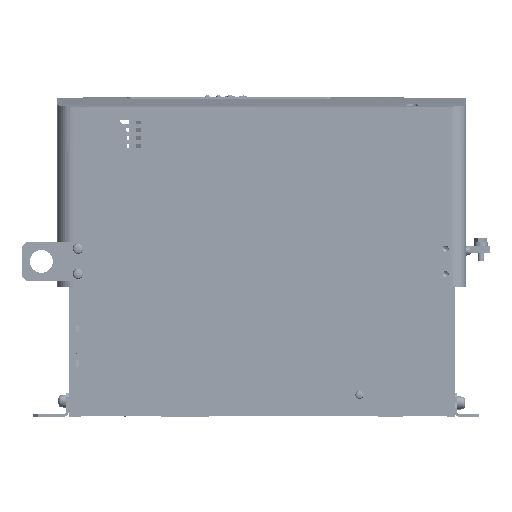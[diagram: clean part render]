
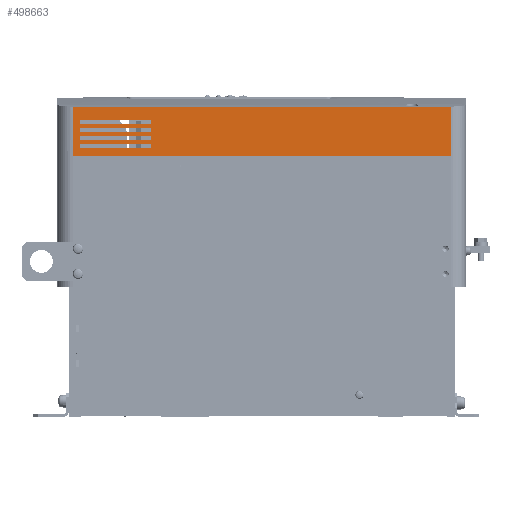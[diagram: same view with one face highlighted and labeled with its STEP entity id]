
A CAD part, left-side view. The second image highlights one B-rep face of the part: STEP entity #498663.
In plain terms, the highlighted planar face has unit normal (-1, 0, 0).
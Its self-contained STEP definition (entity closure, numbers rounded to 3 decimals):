
#488351=CARTESIAN_POINT('',(-120.,365.5,157.684));
#488387=CARTESIAN_POINT('',(-120.,34.5,157.684));
#488545=DIRECTION('',(0.,-1.,0.));
#488546=VECTOR('',#488545,331.);
#488547=CARTESIAN_POINT('',(-120.,365.5,114.5));
#488548=LINE('',#488547,#488546);
#488549=DIRECTION('',(0.,0.,-1.));
#488550=VECTOR('',#488549,43.184);
#488551=CARTESIAN_POINT('',(-120.,365.5,157.684));
#488552=LINE('',#488551,#488550);
#488553=DIRECTION('',(0.,1.,0.));
#488554=VECTOR('',#488553,331.);
#488555=CARTESIAN_POINT('',(-120.,34.5,157.684));
#488556=LINE('',#488555,#488554);
#488557=DIRECTION('',(0.,0.,-1.));
#488558=VECTOR('',#488557,43.184);
#488559=CARTESIAN_POINT('',(-120.,34.5,157.684));
#488560=LINE('',#488559,#488558);
#488561=DIRECTION('',(0.,0.,-1.));
#488562=VECTOR('',#488561,4.);
#488563=CARTESIAN_POINT('',(-120.,297.,125.));
#488564=LINE('',#488563,#488562);
#488565=DIRECTION('',(0.,1.,0.));
#488566=VECTOR('',#488565,62.);
#488567=CARTESIAN_POINT('',(-120.,297.,125.));
#488568=LINE('',#488567,#488566);
#488569=DIRECTION('',(0.,0.,-1.));
#488570=VECTOR('',#488569,4.);
#488571=CARTESIAN_POINT('',(-120.,359.,125.));
#488572=LINE('',#488571,#488570);
#488573=DIRECTION('',(0.,1.,0.));
#488574=VECTOR('',#488573,62.);
#488575=CARTESIAN_POINT('',(-120.,297.,121.));
#488576=LINE('',#488575,#488574);
#488577=DIRECTION('',(0.,0.,-1.));
#488578=VECTOR('',#488577,4.);
#488579=CARTESIAN_POINT('',(-120.,297.,132.01));
#488580=LINE('',#488579,#488578);
#488581=DIRECTION('',(0.,1.,0.));
#488582=VECTOR('',#488581,62.);
#488583=CARTESIAN_POINT('',(-120.,297.,132.01));
#488584=LINE('',#488583,#488582);
#488585=DIRECTION('',(0.,0.,-1.));
#488586=VECTOR('',#488585,4.);
#488587=CARTESIAN_POINT('',(-120.,359.,132.01));
#488588=LINE('',#488587,#488586);
#488589=DIRECTION('',(0.,1.,0.));
#488590=VECTOR('',#488589,62.);
#488591=CARTESIAN_POINT('',(-120.,297.,128.01));
#488592=LINE('',#488591,#488590);
#488593=DIRECTION('',(0.,0.,-1.));
#488594=VECTOR('',#488593,4.);
#488595=CARTESIAN_POINT('',(-120.,297.,139.019));
#488596=LINE('',#488595,#488594);
#488597=DIRECTION('',(0.,1.,0.));
#488598=VECTOR('',#488597,62.);
#488599=CARTESIAN_POINT('',(-120.,297.,139.019));
#488600=LINE('',#488599,#488598);
#488601=DIRECTION('',(0.,0.,-1.));
#488602=VECTOR('',#488601,4.);
#488603=CARTESIAN_POINT('',(-120.,359.,139.019));
#488604=LINE('',#488603,#488602);
#488605=DIRECTION('',(0.,1.,0.));
#488606=VECTOR('',#488605,62.);
#488607=CARTESIAN_POINT('',(-120.,297.,135.019));
#488608=LINE('',#488607,#488606);
#488609=DIRECTION('',(0.,0.,-1.));
#488610=VECTOR('',#488609,4.);
#488611=CARTESIAN_POINT('',(-120.,297.,146.029));
#488612=LINE('',#488611,#488610);
#488613=DIRECTION('',(0.,1.,0.));
#488614=VECTOR('',#488613,62.);
#488615=CARTESIAN_POINT('',(-120.,297.,146.029));
#488616=LINE('',#488615,#488614);
#488617=DIRECTION('',(0.,0.,-1.));
#488618=VECTOR('',#488617,4.);
#488619=CARTESIAN_POINT('',(-120.,359.,146.029));
#488620=LINE('',#488619,#488618);
#488621=DIRECTION('',(0.,1.,0.));
#488622=VECTOR('',#488621,62.);
#488623=CARTESIAN_POINT('',(-120.,297.,142.029));
#488624=LINE('',#488623,#488622);
#495411=VERTEX_POINT('',#488351);
#495416=VERTEX_POINT('',#488387);
#495420=CARTESIAN_POINT('',(-120.,34.5,114.5));
#495421=VERTEX_POINT('',#495420);
#495444=CARTESIAN_POINT('',(-120.,365.5,114.5));
#495445=VERTEX_POINT('',#495444);
#495494=CARTESIAN_POINT('',(-120.,297.,121.));
#495496=VERTEX_POINT('',#495494);
#495499=CARTESIAN_POINT('',(-120.,297.,125.));
#495501=VERTEX_POINT('',#495499);
#495502=CARTESIAN_POINT('',(-120.,359.,121.));
#495504=VERTEX_POINT('',#495502);
#495507=CARTESIAN_POINT('',(-120.,359.,125.));
#495509=VERTEX_POINT('',#495507);
#495510=CARTESIAN_POINT('',(-120.,297.,128.01));
#495512=VERTEX_POINT('',#495510);
#495515=CARTESIAN_POINT('',(-120.,297.,132.01));
#495517=VERTEX_POINT('',#495515);
#495518=CARTESIAN_POINT('',(-120.,359.,128.01));
#495520=VERTEX_POINT('',#495518);
#495523=CARTESIAN_POINT('',(-120.,359.,132.01));
#495525=VERTEX_POINT('',#495523);
#495526=CARTESIAN_POINT('',(-120.,297.,135.019));
#495528=VERTEX_POINT('',#495526);
#495531=CARTESIAN_POINT('',(-120.,297.,139.019));
#495533=VERTEX_POINT('',#495531);
#495534=CARTESIAN_POINT('',(-120.,359.,135.019));
#495536=VERTEX_POINT('',#495534);
#495539=CARTESIAN_POINT('',(-120.,359.,139.019));
#495541=VERTEX_POINT('',#495539);
#495542=CARTESIAN_POINT('',(-120.,297.,142.029));
#495544=VERTEX_POINT('',#495542);
#495547=CARTESIAN_POINT('',(-120.,297.,146.029));
#495549=VERTEX_POINT('',#495547);
#495550=CARTESIAN_POINT('',(-120.,359.,142.029));
#495552=VERTEX_POINT('',#495550);
#495555=CARTESIAN_POINT('',(-120.,359.,146.029));
#495557=VERTEX_POINT('',#495555);
#498611=CARTESIAN_POINT('',(-120.,379.,166.));
#498612=DIRECTION('',(-1.,0.,0.));
#498613=DIRECTION('',(0.,-1.,0.));
#498614=AXIS2_PLACEMENT_3D('',#498611,#498612,#498613);
#498615=PLANE('',#498614);
#498616=ORIENTED_EDGE('',*,*,#496411,.F.);
#498617=ORIENTED_EDGE('',*,*,#498560,.F.);
#498618=ORIENTED_EDGE('',*,*,#498485,.F.);
#498620=ORIENTED_EDGE('',*,*,#498619,.T.);
#498621=EDGE_LOOP('',(#498616,#498617,#498618,#498620));
#498622=FACE_OUTER_BOUND('',#498621,.F.);
#498624=ORIENTED_EDGE('',*,*,#498623,.F.);
#498626=ORIENTED_EDGE('',*,*,#498625,.T.);
#498628=ORIENTED_EDGE('',*,*,#498627,.T.);
#498630=ORIENTED_EDGE('',*,*,#498629,.F.);
#498631=EDGE_LOOP('',(#498624,#498626,#498628,#498630));
#498632=FACE_BOUND('',#498631,.F.);
#498634=ORIENTED_EDGE('',*,*,#498633,.F.);
#498636=ORIENTED_EDGE('',*,*,#498635,.T.);
#498638=ORIENTED_EDGE('',*,*,#498637,.T.);
#498640=ORIENTED_EDGE('',*,*,#498639,.F.);
#498641=EDGE_LOOP('',(#498634,#498636,#498638,#498640));
#498642=FACE_BOUND('',#498641,.F.);
#498644=ORIENTED_EDGE('',*,*,#498643,.F.);
#498646=ORIENTED_EDGE('',*,*,#498645,.T.);
#498648=ORIENTED_EDGE('',*,*,#498647,.T.);
#498650=ORIENTED_EDGE('',*,*,#498649,.F.);
#498651=EDGE_LOOP('',(#498644,#498646,#498648,#498650));
#498652=FACE_BOUND('',#498651,.F.);
#498654=ORIENTED_EDGE('',*,*,#498653,.F.);
#498656=ORIENTED_EDGE('',*,*,#498655,.T.);
#498658=ORIENTED_EDGE('',*,*,#498657,.T.);
#498660=ORIENTED_EDGE('',*,*,#498659,.F.);
#498661=EDGE_LOOP('',(#498654,#498656,#498658,#498660));
#498662=FACE_BOUND('',#498661,.F.);
#496411=EDGE_CURVE('',#495445,#495421,#488548,.T.);
#498485=EDGE_CURVE('',#495416,#495411,#488556,.T.);
#498560=EDGE_CURVE('',#495411,#495445,#488552,.T.);
#498619=EDGE_CURVE('',#495416,#495421,#488560,.T.);
#498623=EDGE_CURVE('',#495501,#495496,#488564,.T.);
#498625=EDGE_CURVE('',#495501,#495509,#488568,.T.);
#498627=EDGE_CURVE('',#495509,#495504,#488572,.T.);
#498629=EDGE_CURVE('',#495496,#495504,#488576,.T.);
#498633=EDGE_CURVE('',#495517,#495512,#488580,.T.);
#498635=EDGE_CURVE('',#495517,#495525,#488584,.T.);
#498637=EDGE_CURVE('',#495525,#495520,#488588,.T.);
#498639=EDGE_CURVE('',#495512,#495520,#488592,.T.);
#498643=EDGE_CURVE('',#495533,#495528,#488596,.T.);
#498645=EDGE_CURVE('',#495533,#495541,#488600,.T.);
#498647=EDGE_CURVE('',#495541,#495536,#488604,.T.);
#498649=EDGE_CURVE('',#495528,#495536,#488608,.T.);
#498653=EDGE_CURVE('',#495549,#495544,#488612,.T.);
#498655=EDGE_CURVE('',#495549,#495557,#488616,.T.);
#498657=EDGE_CURVE('',#495557,#495552,#488620,.T.);
#498659=EDGE_CURVE('',#495544,#495552,#488624,.T.);
#498663=ADVANCED_FACE('',(#498622,#498632,#498642,#498652,#498662),#498615,.T.);
